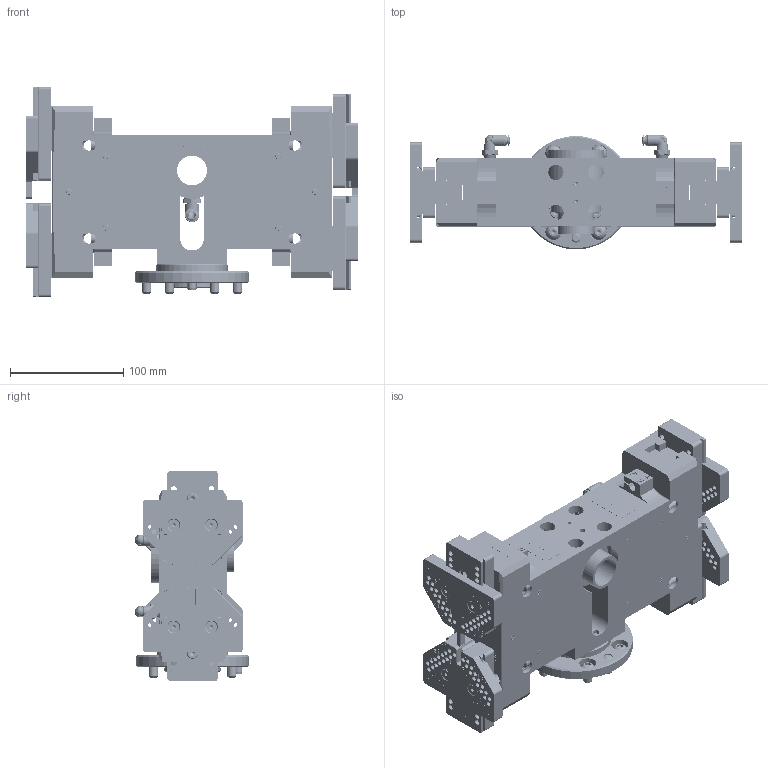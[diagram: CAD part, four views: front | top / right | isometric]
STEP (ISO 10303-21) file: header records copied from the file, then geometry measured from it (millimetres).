
FILE_DESCRIPTION (( 'STEP AP203' ), '1' );
FILE_NAME ('5012619_REV-A.STEP', '2024-11-07T18:28:00', ( '' ), ( '' ), 'SwSTEP 2.0', 'SolidWorks 2019', '' );
FILE_SCHEMA (( 'CONFIG_CONTROL_DESIGN' ));
Length unit declared in the file: inch
Products named in the file (29): Copy of SCHUNK-5524096 Deckel-PGN-plus-P 125^5012457; 5012467_01a - ROUND PUCK PICKING - STANDARD FINGERS - FLOATING FINGERS; M6x1.0 SHCS_SHCS M6-1.0 x 60; M5x0.8 FHCS_M5x0.8 FHCS x 20mm; Copy of SCHUNK-5503506 Halter fuer NHS KL03^5012457; M8 DOWEL PIN_M8 DOWEL PIN x 16mm; Copy of SCHUNK-1459020 finger JGP-P 125-1^5012457; Copy of SCHUNK-5524306 Abdeckblech-PGN-plus-P 125^5012457; 5012457_04 - FLOATING; M8X1.25 BHCS_BHCS M8x1.25 X 14mm; 5012240; 5012948_Default Configuration; M6x1.0 SHCS_SHCS M6-1.0 x 22; Copy of SCHUNK-9949504 limit stop for MMS-P^5012457; 5010632_Default Configuration; 5012630_Default Configuration; 5012615; 5009110_Default Configuration; M6X1.0 SET SCREW_M6x.1.0 SET SCREW x 6mm; 5005514; Copy of SCHUNK-1459019 Gehaeuse-JGP-P 125-GKS^5012457; 5001641_51495K218; Copy of SCHUNK-9905503 Typenschild 11x43x0.3^5012457; 5010633_Default Configuration; 5012619_REV-A; 5012731_Default Configuration; M6 DOWEL PIN_M6 DOWEL x 14mm
Assembly tree (80 placements, depth 4):
  5012619_REV-A
    5012615
    5012467_01a - ROUND PUCK PICKING - STANDARD FINGERS - FLOATING FINGERS
      5012457_04 - FLOATING
        Copy of SCHUNK-1459019 Gehaeuse-JGP-P 125-GKS^5012457
        Copy of SCHUNK-5524306 Abdeckblech-PGN-plus-P 125^5012457
        Copy of SCHUNK-5524096 Deckel-PGN-plus-P 125^5012457
        Copy of SCHUNK-9949504 limit stop for MMS-P^5012457
        Copy of SCHUNK-9905503 Typenschild 11x43x0.3^5012457
        Copy of SCHUNK-5503506 Halter fuer NHS KL03^5012457  x2
        Copy of SCHUNK-1459020 finger JGP-P 125-1^5012457  x2
      5012630_Default Configuration  x2
      M6x1.0 SHCS_SHCS M6-1.0 x 22  x4
      5005514  x2
      M5x0.8 FHCS_M5x0.8 FHCS x 20mm  x4
      5012731_Default Configuration
      5012948_Default Configuration
    5012467_01a - ROUND PUCK PICKING - STANDARD FINGERS - FLOATING FINGERS
      5012457_04 - FLOATING
        Copy of SCHUNK-1459019 Gehaeuse-JGP-P 125-GKS^5012457
        Copy of SCHUNK-5524306 Abdeckblech-PGN-plus-P 125^5012457
        Copy of SCHUNK-5524096 Deckel-PGN-plus-P 125^5012457
        Copy of SCHUNK-9949504 limit stop for MMS-P^5012457
        Copy of SCHUNK-9905503 Typenschild 11x43x0.3^5012457
        Copy of SCHUNK-5503506 Halter fuer NHS KL03^5012457  x2
        Copy of SCHUNK-1459020 finger JGP-P 125-1^5012457  x2
      5012630_Default Configuration  x2
      M6x1.0 SHCS_SHCS M6-1.0 x 22  x4
      5005514  x2
      M5x0.8 FHCS_M5x0.8 FHCS x 20mm  x4
      5012731_Default Configuration
      5012948_Default Configuration
    5001641_51495K218
    5009110_Default Configuration
    M6x1.0 SHCS_SHCS M6-1.0 x 60  x12
    M6 DOWEL PIN_M6 DOWEL x 14mm
    M6X1.0 SET SCREW_M6x.1.0 SET SCREW x 6mm  x2
    5012240
    M8X1.25 BHCS_BHCS M8x1.25 X 14mm  x6
    M8 DOWEL PIN_M8 DOWEL PIN x 16mm
    5010632_Default Configuration  x2
    5010633_Default Configuration  x2
Bounding box: 292.62 x 101 x 185.1 mm (x, y, z)
Volume: 1911872.1 mm3; surface area: 507068 mm2
Topology: 107 solids, 109 shells, 12688 faces, 33053 edges, 21557 vertices
Faces by surface type: plane 4836, bspline 4664, cylinder 2179, cone 894, torus 96, sphere 19
Entity records: 294484 total; most frequent: CARTESIAN_POINT 160438, ORIENTED_EDGE 30366, DIRECTION 19974, EDGE_CURVE 15183, VERTEX_POINT 9989, LINE 7924, VECTOR 7924, EDGE_LOOP 6630
